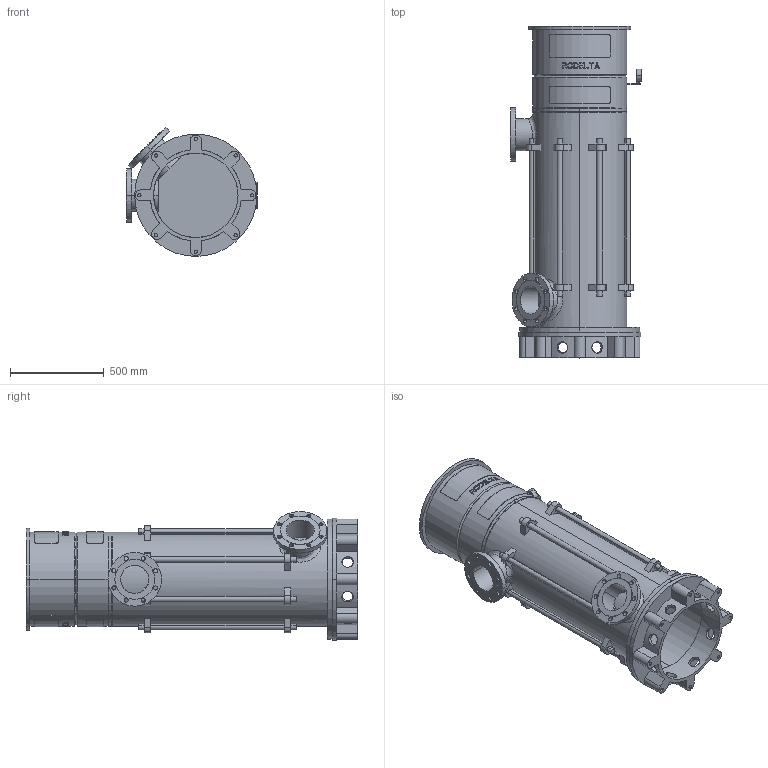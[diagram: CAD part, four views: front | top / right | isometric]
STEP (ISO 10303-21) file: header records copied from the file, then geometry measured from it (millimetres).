
FILE_DESCRIPTION((''),'2;1');
FILE_NAME('LS6_5TR_0GR_PN16_ABOVE_30KW','2025-10-23T15:43:08',('Lyritlocal'),(''),'CREO PARAMETRIC BY PTC INC, 2022014','CREO PARAMETRIC BY PTC INC, 2022014','');
FILE_SCHEMA(('CONFIG_CONTROL_DESIGN'));
Length unit declared in the file: millimetre
Products named in the file (1): LS6_5TR_0GR_PN16_ABOVE_30KW
Bounding box: 700 x 1765 x 685.27 mm (x, y, z)
Volume: 56775698.5 mm3; surface area: 7959214.8 mm2
Topology: 3 solids, 11 shells, 732 faces, 1889 edges, 1258 vertices
Faces by surface type: plane 438, cylinder 274, cone 12, bspline 8
Entity records: 24200 total; most frequent: CARTESIAN_POINT 6380, ORIENTED_EDGE 3746, DIRECTION 3535, EDGE_CURVE 1889, AXIS2_PLACEMENT_3D 1341, VERTEX_POINT 1258, EDGE_LOOP 895, VECTOR 853
